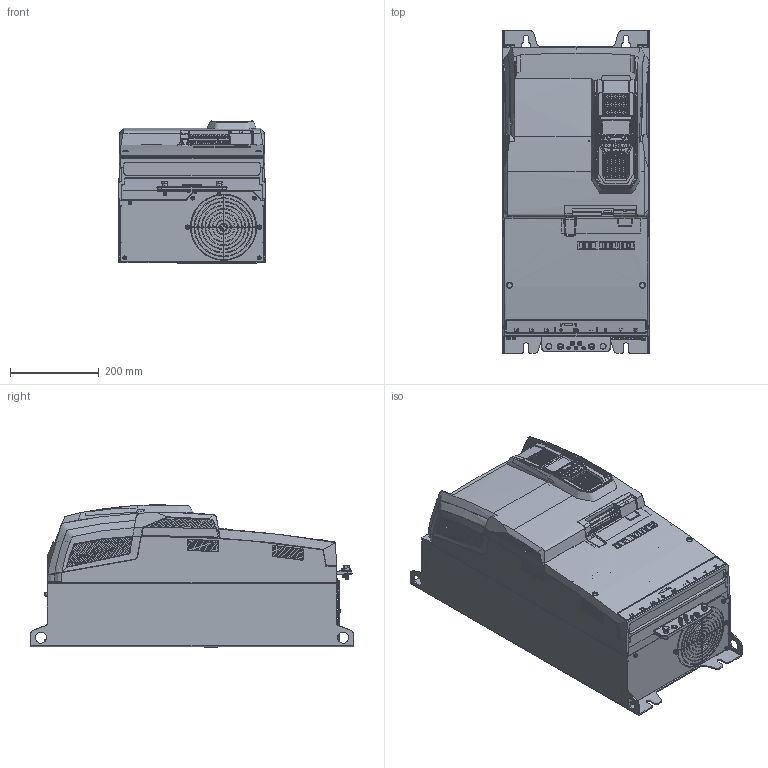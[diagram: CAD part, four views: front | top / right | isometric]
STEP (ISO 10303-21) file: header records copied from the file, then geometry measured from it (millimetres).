
FILE_DESCRIPTION (( 'STEP AP203' ), '1' );
FILE_NAME ('P2.IP20.SIZE6B.TFT (ENVELOPE).STEP', '2020-11-24T15:39:05', ( '' ), ( '' ), 'SwSTEP 2.0', 'SolidWorks 2020', '' );
FILE_SCHEMA (( 'CONFIG_CONTROL_DESIGN' ));
Length unit declared in the file: millimetre
Products named in the file (1): P2.IP20.SIZE6B.TFT (ENVELOPE)
Bounding box: 330 x 726 x 319.7 mm (x, y, z)
Volume: 44062 mm3; surface area: 1405927 mm2
Topology: 38 solids, 46 shells, 8931 faces, 23796 edges, 15663 vertices
Faces by surface type: plane 6030, bspline 1327, cylinder 1230, cone 203, torus 141
Entity records: 344326 total; most frequent: CARTESIAN_POINT 143777, ORIENTED_EDGE 47568, DIRECTION 31317, EDGE_CURVE 23784, VERTEX_POINT 15671, LINE 12445, VECTOR 12445, EDGE_LOOP 9797
